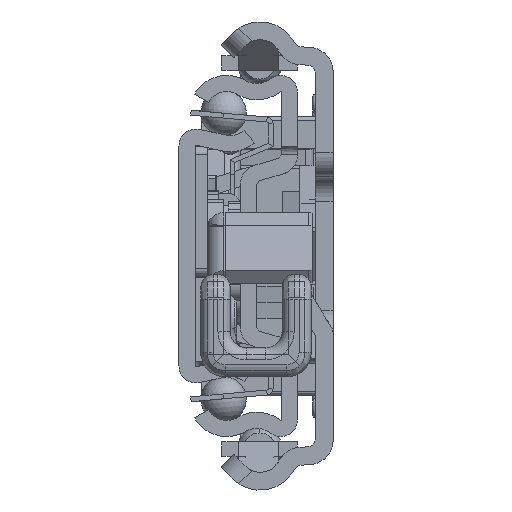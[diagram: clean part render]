
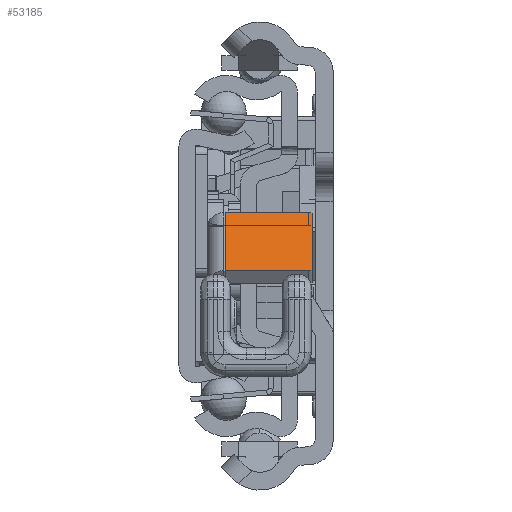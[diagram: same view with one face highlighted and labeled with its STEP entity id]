
A CAD part, left-side view. The second image highlights one B-rep face of the part: STEP entity #53185.
In plain terms, the highlighted planar face has unit normal (-0.597, 0, 0.802) as drawn and (-0.597, -0.802, 0) by its records, which use the part's own axes.
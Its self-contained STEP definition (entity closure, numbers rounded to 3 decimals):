
#52573=DIRECTION('',(0.802,-0.597,0.));
#52574=VECTOR('',#52573,12.);
#52575=CARTESIAN_POINT('',(31.957,-10.314,-0.2));
#52576=LINE('',#52575,#52574);
#52601=DIRECTION('',(0.,0.,1.));
#52602=VECTOR('',#52601,10.3);
#52603=CARTESIAN_POINT('',(41.586,-17.476,-10.5));
#52604=LINE('',#52603,#52602);
#52605=CARTESIAN_POINT('',(41.184,-17.178,-10.5));
#52606=DIRECTION('',(-0.597,-0.802,0.));
#52607=DIRECTION('',(0.,0.,-1.));
#52608=AXIS2_PLACEMENT_3D('',#52605,#52606,#52607);
#52610=DIRECTION('',(0.802,-0.597,0.));
#52611=VECTOR('',#52610,11.);
#52612=CARTESIAN_POINT('',(32.358,-10.613,-11.));
#52613=LINE('',#52612,#52611);
#52614=CARTESIAN_POINT('',(32.358,-10.613,-10.5));
#52615=DIRECTION('',(-0.597,-0.802,0.));
#52616=DIRECTION('',(-0.802,0.597,0.));
#52617=AXIS2_PLACEMENT_3D('',#52614,#52615,#52616);
#52619=DIRECTION('',(0.,0.,-1.));
#52620=VECTOR('',#52619,10.3);
#52621=CARTESIAN_POINT('',(31.957,-10.314,-0.2));
#52622=LINE('',#52621,#52620);
#52839=CARTESIAN_POINT('',(31.957,-10.314,-0.2));
#52840=CARTESIAN_POINT('',(41.586,-17.476,-0.2));
#52841=VERTEX_POINT('',#52839);
#52842=VERTEX_POINT('',#52840);
#52871=CARTESIAN_POINT('',(41.586,-17.476,-10.5));
#52872=VERTEX_POINT('',#52871);
#52873=CARTESIAN_POINT('',(32.358,-10.613,-11.));
#52874=CARTESIAN_POINT('',(41.184,-17.178,-11.));
#52875=VERTEX_POINT('',#52873);
#52876=VERTEX_POINT('',#52874);
#52877=CARTESIAN_POINT('',(31.957,-10.314,-10.5));
#52878=VERTEX_POINT('',#52877);
#53167=CARTESIAN_POINT('',(34.726,-12.374,2.));
#53168=DIRECTION('',(0.597,0.802,0.));
#53169=DIRECTION('',(0.802,-0.597,0.));
#53170=AXIS2_PLACEMENT_3D('',#53167,#53168,#53169);
#53171=PLANE('',#53170);
#53173=ORIENTED_EDGE('',*,*,#53172,.F.);
#53175=ORIENTED_EDGE('',*,*,#53174,.F.);
#53177=ORIENTED_EDGE('',*,*,#53176,.F.);
#53179=ORIENTED_EDGE('',*,*,#53178,.F.);
#53181=ORIENTED_EDGE('',*,*,#53180,.F.);
#53182=ORIENTED_EDGE('',*,*,#53154,.T.);
#53183=EDGE_LOOP('',(#53173,#53175,#53177,#53179,#53181,#53182));
#53184=FACE_OUTER_BOUND('',#53183,.F.);
#52609=CIRCLE('',#52608,0.5);
#52618=CIRCLE('',#52617,0.5);
#53154=EDGE_CURVE('',#52841,#52842,#52576,.T.);
#53172=EDGE_CURVE('',#52872,#52842,#52604,.T.);
#53174=EDGE_CURVE('',#52876,#52872,#52609,.T.);
#53176=EDGE_CURVE('',#52875,#52876,#52613,.T.);
#53178=EDGE_CURVE('',#52878,#52875,#52618,.T.);
#53180=EDGE_CURVE('',#52841,#52878,#52622,.T.);
#53185=ADVANCED_FACE('',(#53184),#53171,.F.);
